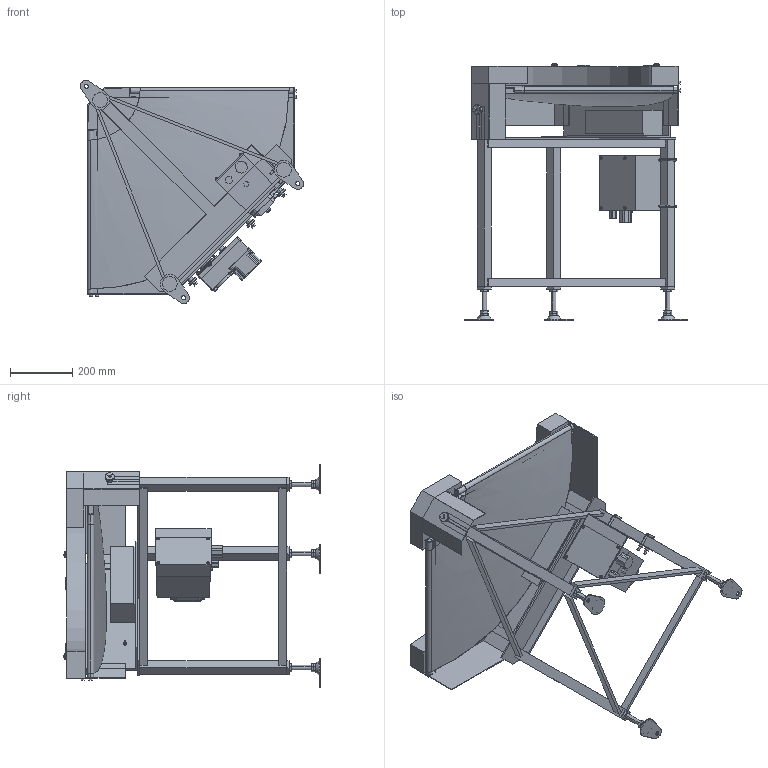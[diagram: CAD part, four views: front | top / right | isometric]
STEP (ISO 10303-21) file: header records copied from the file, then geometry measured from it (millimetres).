
FILE_DESCRIPTION( (''), '2;1');
FILE_NAME ('GFBC-HS-309-400-90°-L-DC-30.stp','2025-01-31T18:13:43',(''),(''),'spGate 20.6.2 (****-****-****-****)','','');
FILE_SCHEMA (('AUTOMOTIVE_DESIGN'));
Length unit declared in the file: millimetre
Products named in the file (65): NewModel; TEMP_X_T-prt0; TEMP_X_T-prt1; TEMP_X_T-prt2; TEMP_X_T-prt3; TEMP_X_T-prt4; TEMP_X_T-prt5; TEMP_X_T-prt6; TEMP_X_T-prt7; TEMP_X_T-prt8; TEMP_X_T-prt9; TEMP_X_T-prt10; TEMP_X_T-prt11; TEMP_X_T-prt12; TEMP_X_T-prt13; TEMP_X_T-prt14; TEMP_X_T-prt15; TEMP_X_T-prt16; TEMP_X_T-prt17; TEMP_X_T-prt18; TEMP_X_T-prt19; TEMP_X_T-prt20; TEMP_X_T-prt21; TEMP_X_T-prt22; TEMP_X_T-prt23; TEMP_X_T-prt24; TEMP_X_T-prt25; TEMP_X_T-prt26; TEMP_X_T-prt27; TEMP_X_T-prt28; TEMP_X_T-prt29; TEMP_X_T-prt30; TEMP_X_T-prt31; TEMP_X_T-prt32; TEMP_X_T-prt33; TEMP_X_T-prt34; TEMP_X_T-prt35; TEMP_X_T-prt36; TEMP_X_T-prt37; TEMP_X_T-prt38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
Assembly tree (64 placements, depth 2):
  NewModel
    TEMP_X_T-prt0
    TEMP_X_T-prt1
    TEMP_X_T-prt2
    TEMP_X_T-prt3
    TEMP_X_T-prt4
    TEMP_X_T-prt5
    TEMP_X_T-prt6
    TEMP_X_T-prt7
    TEMP_X_T-prt8
    TEMP_X_T-prt9
    TEMP_X_T-prt10
    TEMP_X_T-prt11
    TEMP_X_T-prt12
    TEMP_X_T-prt13
    TEMP_X_T-prt14
    TEMP_X_T-prt15
    TEMP_X_T-prt16
    TEMP_X_T-prt17
    TEMP_X_T-prt18
    TEMP_X_T-prt19
    TEMP_X_T-prt20
    TEMP_X_T-prt21
    TEMP_X_T-prt22
    TEMP_X_T-prt23
    TEMP_X_T-prt24
    TEMP_X_T-prt25
    TEMP_X_T-prt26
    TEMP_X_T-prt27
    TEMP_X_T-prt28
    TEMP_X_T-prt29
    TEMP_X_T-prt30
    TEMP_X_T-prt31
    TEMP_X_T-prt32
    TEMP_X_T-prt33
    TEMP_X_T-prt34
    TEMP_X_T-prt35
    TEMP_X_T-prt36
    TEMP_X_T-prt37
    TEMP_X_T-prt38
    TEMP_X_T-prt39
    TEMP_X_T-prt40
    TEMP_X_T-prt41
    TEMP_X_T-prt42
    TEMP_X_T-prt43
    TEMP_X_T-prt44
    TEMP_X_T-prt45
    TEMP_X_T-prt46
    TEMP_X_T-prt47
    TEMP_X_T-prt48
    TEMP_X_T-prt49
    TEMP_X_T-prt50
    TEMP_X_T-prt51
    TEMP_X_T-prt52
    TEMP_X_T-prt53
    TEMP_X_T-prt54
    TEMP_X_T-prt55
    TEMP_X_T-prt56
    TEMP_X_T-prt57
    TEMP_X_T-prt58
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Bounding box: 719.17 x 827.92 x 719.17 mm (x, y, z)
Volume: 16409803.9 mm3; surface area: 4108203 mm2
Topology: 64 solids, 65 shells, 1418 faces, 3505 edges, 2218 vertices
Faces by surface type: plane 865, cylinder 406, bspline 143, sphere 4
Entity records: 77878 total; most frequent: CARTESIAN_POINT 15441, DIRECTION 6805, ORIENTED_EDGE 6756, COLOUR_RGB 4868, PRESENTATION_STYLE_ASSIGNMENT 4868, STYLED_ITEM 4868, EDGE_CURVE 3386, DRAUGHTING_PRE_DEFINED_CURVE_FONT 3386
